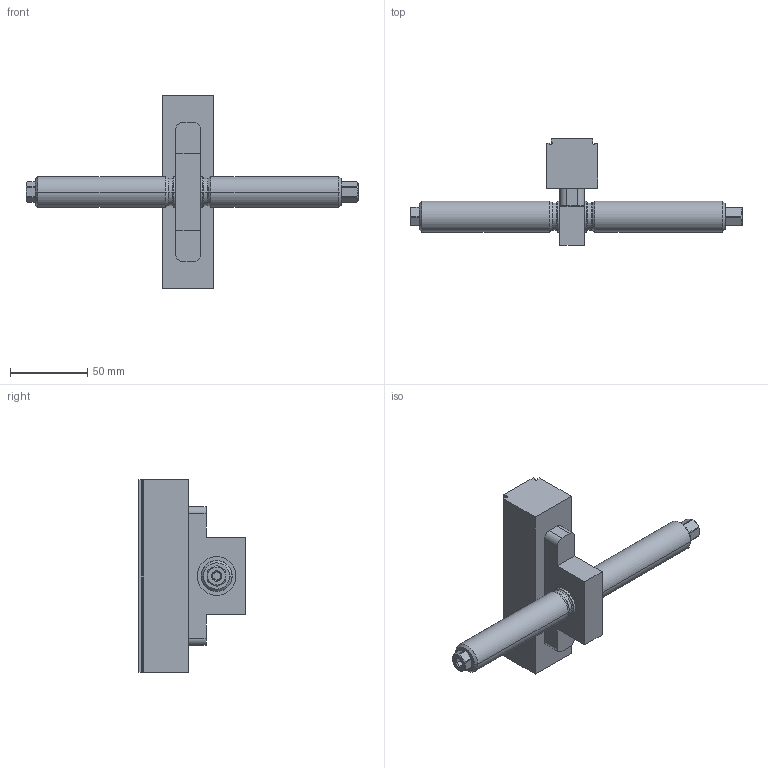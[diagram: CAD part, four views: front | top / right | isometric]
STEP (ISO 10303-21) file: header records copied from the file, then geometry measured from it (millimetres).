
FILE_DESCRIPTION (( 'STEP AP214' ), '1' );
FILE_NAME ('47205-TG27.STEP', '2023-02-20T08:58:38', ( '' ), ( '' ), 'SwSTEP 2.0', 'SolidWorks 2021', '' );
FILE_SCHEMA (( 'AUTOMOTIVE_DESIGN' ));
Length unit declared in the file: millimetre
Products named in the file (1): 47205-TG27
Bounding box: 215 x 68.8 x 124.6 mm (x, y, z)
Volume: 223855.2 mm3; surface area: 39048.7 mm2
Topology: 2 solids, 2 shells, 116 faces, 285 edges, 182 vertices
Faces by surface type: plane 57, cylinder 35, cone 16, torus 8
Entity records: 4946 total; most frequent: CARTESIAN_POINT 848, DIRECTION 589, ORIENTED_EDGE 570, EDGE_CURVE 285, AXIS2_PLACEMENT_3D 215, VERTEX_POINT 182, VECTOR 159, LINE 159
